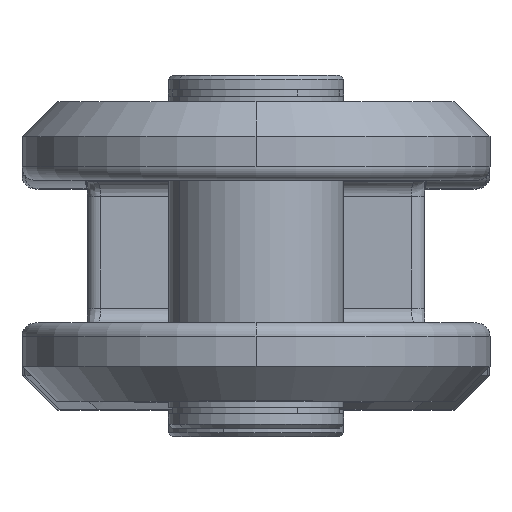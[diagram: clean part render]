
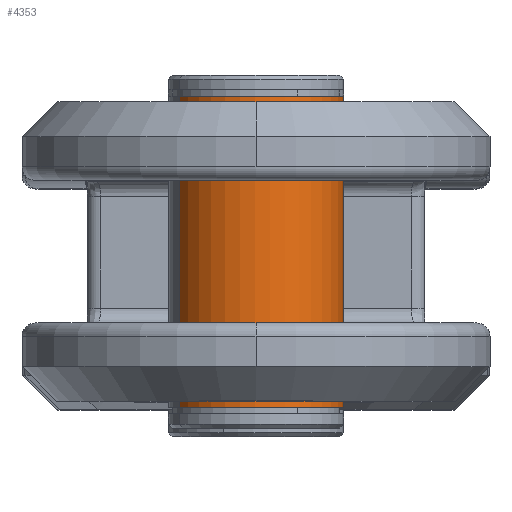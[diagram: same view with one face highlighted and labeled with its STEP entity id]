
A CAD part, top view. The second image highlights one B-rep face of the part: STEP entity #4353.
In plain terms, the highlighted cylindrical face has radius 45.5 mm (diameter 91 mm), a partial arc.
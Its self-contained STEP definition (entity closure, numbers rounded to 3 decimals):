
#61 = VERTEX_POINT ( 'NONE', #6768 ) ;
#212 = CARTESIAN_POINT ( 'NONE',  ( 10.9, 0., -45.5 ) ) ;
#479 = DIRECTION ( 'NONE',  ( -1., 0., 0. ) ) ;
#607 = VECTOR ( 'NONE', #942, 1000. ) ;
#613 = VECTOR ( 'NONE', #479, 1000. ) ;
#914 = EDGE_LOOP ( 'NONE', ( #3333, #6695, #3532, #4785 ) ) ;
#942 = DIRECTION ( 'NONE',  ( -1., 0., 0. ) ) ;
#967 = FACE_OUTER_BOUND ( 'NONE', #914, .T. ) ;
#1336 = CARTESIAN_POINT ( 'NONE',  ( 172.3, 0., 45.5 ) ) ;
#1436 = DIRECTION ( 'NONE',  ( 0., 0., 1. ) ) ;
#1512 = CARTESIAN_POINT ( 'NONE',  ( 0., 0., 45.5 ) ) ;
#1728 = DIRECTION ( 'NONE',  ( -1., 0., 0. ) ) ;
#1883 = CIRCLE ( 'NONE', #2640, 45.5 ) ;
#1924 = EDGE_CURVE ( 'NONE', #2667, #61, #1883, .T. ) ;
#2220 = CARTESIAN_POINT ( 'NONE',  ( 172.3, 0., 0. ) ) ;
#2457 = CARTESIAN_POINT ( 'NONE',  ( 0., 0., 0. ) ) ;
#2640 = AXIS2_PLACEMENT_3D ( 'NONE', #6428, #4366, #4033 ) ;
#2667 = VERTEX_POINT ( 'NONE', #212 ) ;
#2754 = DIRECTION ( 'NONE',  ( 0., -1., 0. ) ) ;
#3333 = ORIENTED_EDGE ( 'NONE', *, *, #4481, .F. ) ;
#3516 = LINE ( 'NONE', #3752, #613 ) ;
#3532 = ORIENTED_EDGE ( 'NONE', *, *, #5305, .T. ) ;
#3752 = CARTESIAN_POINT ( 'NONE',  ( 0., 0., -45.5 ) ) ;
#3933 = CIRCLE ( 'NONE', #5177, 45.5 ) ;
#4033 = DIRECTION ( 'NONE',  ( 0., -1., 0. ) ) ;
#4353 = ADVANCED_FACE ( 'NONE', ( #967 ), #5097, .T. ) ;
#4366 = DIRECTION ( 'NONE',  ( -1., 0., 0. ) ) ;
#4481 = EDGE_CURVE ( 'NONE', #6083, #2667, #3516, .T. ) ;
#4579 = CARTESIAN_POINT ( 'NONE',  ( 172.3, 0., -45.5 ) ) ;
#4785 = ORIENTED_EDGE ( 'NONE', *, *, #1924, .F. ) ;
#5097 = CYLINDRICAL_SURFACE ( 'NONE', #5478, 45.5 ) ;
#5177 = AXIS2_PLACEMENT_3D ( 'NONE', #2220, #5942, #2754 ) ;
#5305 = EDGE_CURVE ( 'NONE', #6075, #61, #6307, .T. ) ;
#5478 = AXIS2_PLACEMENT_3D ( 'NONE', #2457, #1728, #1436 ) ;
#5942 = DIRECTION ( 'NONE',  ( -1., 0., 0. ) ) ;
#6075 = VERTEX_POINT ( 'NONE', #1336 ) ;
#6083 = VERTEX_POINT ( 'NONE', #4579 ) ;
#6307 = LINE ( 'NONE', #1512, #607 ) ;
#6398 = EDGE_CURVE ( 'NONE', #6083, #6075, #3933, .T. ) ;
#6428 = CARTESIAN_POINT ( 'NONE',  ( 10.9, 0., 0. ) ) ;
#6695 = ORIENTED_EDGE ( 'NONE', *, *, #6398, .T. ) ;
#6768 = CARTESIAN_POINT ( 'NONE',  ( 10.9, 0., 45.5 ) ) ;
